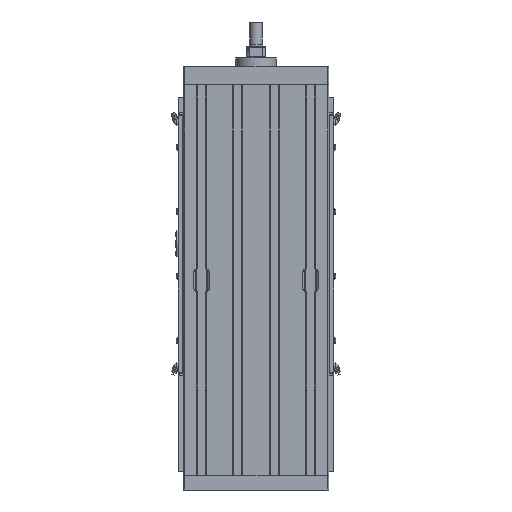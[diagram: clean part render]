
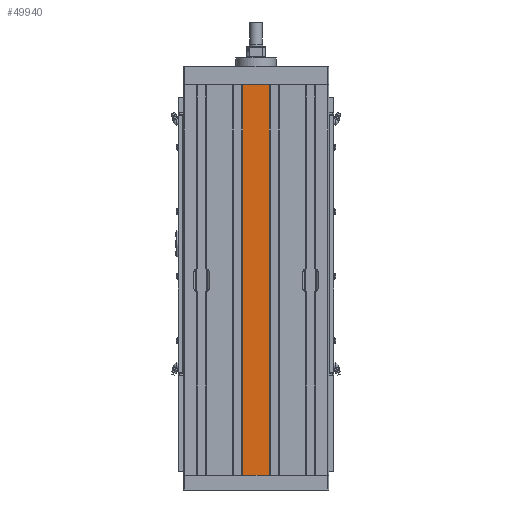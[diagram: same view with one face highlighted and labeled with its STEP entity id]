
A CAD part, front view. The second image highlights one B-rep face of the part: STEP entity #49940.
In plain terms, the highlighted planar face has unit normal (0, -1, 0).
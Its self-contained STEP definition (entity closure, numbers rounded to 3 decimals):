
#6469=FACE_OUTER_BOUND('',#9290,.T.);
#9290=EDGE_LOOP('',(#35460,#35461,#35462,#35463));
#12736=LINE('',#73061,#17310);
#12889=LINE('',#73504,#17463);
#13082=LINE('',#73927,#17656);
#13083=LINE('',#73929,#17657);
#17310=VECTOR('',#58685,10.);
#17463=VECTOR('',#58988,10.);
#17656=VECTOR('',#59497,10.);
#17657=VECTOR('',#59500,10.);
#21858=VERTEX_POINT('',#73058);
#21859=VERTEX_POINT('',#73060);
#22073=VERTEX_POINT('',#73501);
#22074=VERTEX_POINT('',#73503);
#26866=EDGE_CURVE('',#21858,#21859,#12736,.T.);
#27093=EDGE_CURVE('',#22073,#22074,#12889,.T.);
#27309=EDGE_CURVE('',#21858,#22074,#13082,.T.);
#27310=EDGE_CURVE('',#21859,#22073,#13083,.T.);
#35460=ORIENTED_EDGE('',*,*,#27309,.T.);
#35461=ORIENTED_EDGE('',*,*,#27093,.F.);
#35462=ORIENTED_EDGE('',*,*,#27310,.F.);
#35463=ORIENTED_EDGE('',*,*,#26866,.F.);
#48177=PLANE('',#53352);
#49940=ADVANCED_FACE('',(#6469),#48177,.T.);
#53352=AXIS2_PLACEMENT_3D('',#73928,#59498,#59499);
#58685=DIRECTION('',(-1.,0.,0.));
#58988=DIRECTION('',(1.,0.,0.));
#59497=DIRECTION('',(0.,0.,1.));
#59498=DIRECTION('center_axis',(0.,-1.,0.));
#59499=DIRECTION('ref_axis',(1.,0.,0.));
#59500=DIRECTION('',(0.,0.,1.));
#73058=CARTESIAN_POINT('',(16.4,-45.,-292.));
#73060=CARTESIAN_POINT('',(-16.4,-45.,-292.));
#73061=CARTESIAN_POINT('',(16.4,-45.,-292.));
#73501=CARTESIAN_POINT('',(-16.4,-45.,192.));
#73503=CARTESIAN_POINT('',(16.4,-45.,192.));
#73504=CARTESIAN_POINT('',(-16.4,-45.,192.));
#73927=CARTESIAN_POINT('',(16.4,-45.,0.));
#73928=CARTESIAN_POINT('Origin',(-16.4,-45.,0.));
#73929=CARTESIAN_POINT('',(-16.4,-45.,0.));
